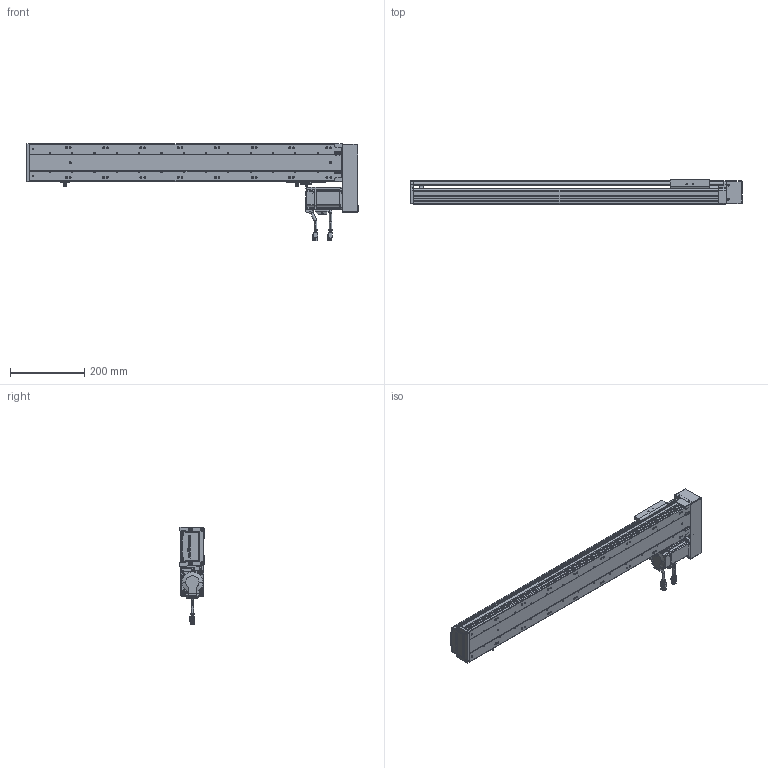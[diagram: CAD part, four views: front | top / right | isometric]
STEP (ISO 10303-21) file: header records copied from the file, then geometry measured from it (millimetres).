
FILE_DESCRIPTION (( 'STEP AP203' ), '1' );
FILE_NAME ('RY100S-L1620-300-RK(15双轨).SLDASM_650.step', '2021-02-20T08:48:19', ( '盈信电脑' ), ( '东莞市道滘镇水果街19号' ), 'SwSTEP 2.0', 'SolidWorks 2012', '' );
FILE_SCHEMA (( 'CONFIG_CONTROL_DESIGN' ));
Length unit declared in the file: millimetre
Products named in the file (25): RY100S-L1620-300-RK(15邧寢).SLDASM_650; RY100S铝滑块（15双轨单滑块）底组装导轨; 3M30喘15遵; 蚾饜极1^RY100S-L1620-300-RK(15邧寢); 侂狟200W萇儂; 7; 6; 4; 5; 2; 肮祭湍3M遵15笚酗282; 3; 1; RY80肮祭湍覃踡啣; RY100S转折电机安装板（15双轨）; RY80肮祭湍芢雄輸; RY100S左右折电机罩（15双轨）; RY100S转折电机端支撑座(15双轨); 滅袉蝶18-24; RY100俋离覜茼え; RY100綴裔啣; 覜茼ん672; 滅袉蝶18-10; RY100S-300-LK转折型材上盖(15双轨)_650; RY100S-350-LK型材底座(低组15双轨)_650
Assembly tree (27 placements, depth 4):
  RY100S-L1620-300-RK(15邧寢).SLDASM_650
    RY100S-350-LK型材底座(低组15双轨)_650
    RY100S-300-LK转折型材上盖(15双轨)_650
    覜茼ん672  x3
    滅袉蝶18-10
    RY100俋离覜茼え
    RY100S转折电机端支撑座(15双轨)
    滅袉蝶18-24
    RY100綴裔啣
    蚾饜极1^RY100S-L1620-300-RK(15邧寢)
      RY80肮祭湍覃踡啣
      RY80肮祭湍芢雄輸  x2
      RY100S左右折电机罩（15双轨）
      RY100S转折电机安装板（15双轨）
      肮祭湍3M遵15笚酗282
      侂狟200W萇儂
        1
        2
        3
        4
        5
        6
        7
      3M30喘15遵
    RY100S铝滑块（15双轨单滑块）底组装导轨
Bounding box: 892.5 x 65 x 263.3 mm (x, y, z)
Volume: 2168538.4 mm3; surface area: 847827.7 mm2
Topology: 25 solids, 25 shells, 3270 faces, 8813 edges, 5682 vertices
Faces by surface type: plane 1716, cylinder 1271, cone 169, bspline 114
Entity records: 106515 total; most frequent: CARTESIAN_POINT 26608, ORIENTED_EDGE 16330, DIRECTION 15790, EDGE_CURVE 8165, AXIS2_PLACEMENT_3D 5395, VERTEX_POINT 5318, VECTOR 5000, LINE 5000
